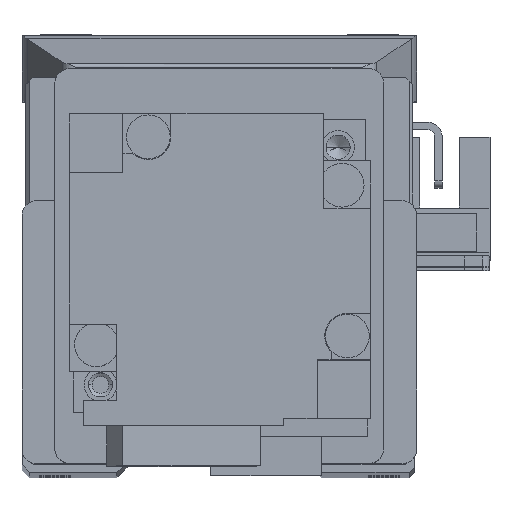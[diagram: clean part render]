
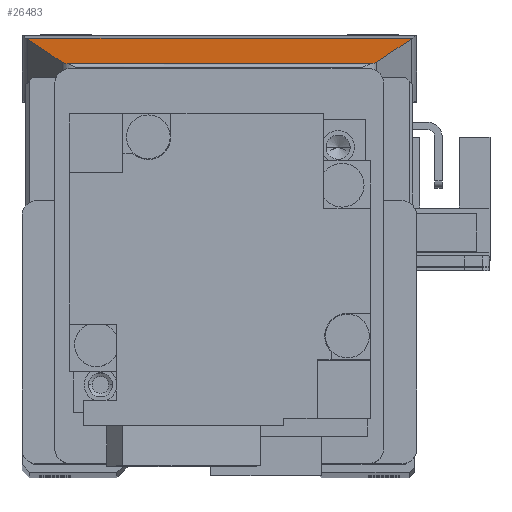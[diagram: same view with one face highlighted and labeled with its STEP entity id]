
A CAD part, top view. The second image highlights one B-rep face of the part: STEP entity #26483.
In plain terms, the highlighted planar face has unit normal (0, 0.966, 0.258).
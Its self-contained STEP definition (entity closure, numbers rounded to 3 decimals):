
#582 = CARTESIAN_POINT ( 'NONE',  ( 26.285, 49.723, 44.788 ) ) ;
#611 = VERTEX_POINT ( 'NONE', #21360 ) ;
#1203 = DIRECTION ( 'NONE',  ( 0.361, -0.24, 0.901 ) ) ;
#2721 = VECTOR ( 'NONE', #22898, 1000. ) ;
#4397 = EDGE_CURVE ( 'NONE', #14322, #16780, #9303, .T. ) ;
#4693 = CARTESIAN_POINT ( 'NONE',  ( 26.418, 49.815, 44.442 ) ) ;
#4695 = VERTEX_POINT ( 'NONE', #24215 ) ;
#4858 = ORIENTED_EDGE ( 'NONE', *, *, #4397, .T. ) ;
#5297 = CARTESIAN_POINT ( 'NONE',  ( -26.285, 49.723, 44.788 ) ) ;
#5342 = ORIENTED_EDGE ( 'NONE', *, *, #6257, .T. ) ;
#6257 = EDGE_CURVE ( 'NONE', #24327, #14322, #31504, .T. ) ;
#6643 = ORIENTED_EDGE ( 'NONE', *, *, #17551, .T. ) ;
#6715 = ORIENTED_EDGE ( 'NONE', *, *, #10898, .F. ) ;
#6969 = CARTESIAN_POINT ( 'NONE',  ( 21.36, 46.44, 57.101 ) ) ;
#7418 = VERTEX_POINT ( 'NONE', #13084 ) ;
#7911 = CARTESIAN_POINT ( 'NONE',  ( 26.285, 49.723, 44.788 ) ) ;
#8066 = AXIS2_PLACEMENT_3D ( 'NONE', #12038, #23162, #29037 ) ;
#8564 = CARTESIAN_POINT ( 'NONE',  ( -26.418, 49.815, 44.442 ) ) ;
#9202 = CARTESIAN_POINT ( 'NONE',  ( 26.477, 49.862, 44.266 ) ) ;
#9303 =( BOUNDED_CURVE ( )  B_SPLINE_CURVE ( 3, ( #11767, #33924, #17079, #28177 ),
 .UNSPECIFIED., .F., .F. ) 
 B_SPLINE_CURVE_WITH_KNOTS ( ( 4, 4 ),
 ( 1.951, 2.523 ),
 .UNSPECIFIED. ) 
 CURVE ( )  GEOMETRIC_REPRESENTATION_ITEM ( )  RATIONAL_B_SPLINE_CURVE ( ( 1., 0.973, 0.973, 1. ) ) 
 REPRESENTATION_ITEM ( '' )  );
#9499 = ORIENTED_EDGE ( 'NONE', *, *, #13606, .T. ) ;
#10214 = LINE ( 'NONE', #14268, #2721 ) ;
#10898 = EDGE_CURVE ( 'NONE', #4695, #16780, #10214, .T. ) ;
#11647 = VECTOR ( 'NONE', #1203, 1000. ) ;
#11684 = LINE ( 'NONE', #13460, #15241 ) ;
#11767 = CARTESIAN_POINT ( 'NONE',  ( -21.503, 46.535, 56.743 ) ) ;
#12038 = CARTESIAN_POINT ( 'NONE',  ( 27., 46.299, 57.629 ) ) ;
#12384 = CARTESIAN_POINT ( 'NONE',  ( -14.891, 42.127, 73.273 ) ) ;
#12984 = EDGE_CURVE ( 'NONE', #14977, #7418, #22142, .T. ) ;
#13084 = CARTESIAN_POINT ( 'NONE',  ( -26.477, 49.862, 44.266 ) ) ;
#13460 = CARTESIAN_POINT ( 'NONE',  ( 21.909, 46.806, 55.728 ) ) ;
#13606 = EDGE_CURVE ( 'NONE', #18646, #14977, #25996, .T. ) ;
#14268 = CARTESIAN_POINT ( 'NONE',  ( 27., 46.299, 57.629 ) ) ;
#14322 = VERTEX_POINT ( 'NONE', #25777 ) ;
#14502 = CARTESIAN_POINT ( 'NONE',  ( -26.354, 49.769, 44.616 ) ) ;
#14910 =( BOUNDED_CURVE ( )  B_SPLINE_CURVE ( 3, ( #25886, #31750, #6969, #18201 ),
 .UNSPECIFIED., .F., .F. ) 
 B_SPLINE_CURVE_WITH_KNOTS ( ( 4, 4 ),
 ( 3.761, 4.332 ),
 .UNSPECIFIED. ) 
 CURVE ( )  GEOMETRIC_REPRESENTATION_ITEM ( )  RATIONAL_B_SPLINE_CURVE ( ( 1., 0.973, 0.973, 1. ) ) 
 REPRESENTATION_ITEM ( '' )  );
#14977 = VERTEX_POINT ( 'NONE', #9202 ) ;
#15241 = VECTOR ( 'NONE', #27614, 1000. ) ;
#16227 = CARTESIAN_POINT ( 'NONE',  ( 27., 49.862, 44.266 ) ) ;
#16780 = VERTEX_POINT ( 'NONE', #27254 ) ;
#17079 = CARTESIAN_POINT ( 'NONE',  ( -21.121, 46.359, 57.405 ) ) ;
#17551 = EDGE_CURVE ( 'NONE', #611, #18646, #11684, .T. ) ;
#18201 = CARTESIAN_POINT ( 'NONE',  ( 21.503, 46.535, 56.743 ) ) ;
#18646 = VERTEX_POINT ( 'NONE', #582 ) ;
#18691 = EDGE_CURVE ( 'NONE', #7418, #24327, #27399, .T. ) ;
#21360 = CARTESIAN_POINT ( 'NONE',  ( 21.503, 46.535, 56.743 ) ) ;
#21891 = ORIENTED_EDGE ( 'NONE', *, *, #18691, .T. ) ;
#21904 = DIRECTION ( 'NONE',  ( -1., 0., 0. ) ) ;
#22142 = LINE ( 'NONE', #16227, #28750 ) ;
#22716 = EDGE_LOOP ( 'NONE', ( #6643, #9499, #31244, #21891, #5342, #4858, #6715, #32749 ) ) ;
#22898 = DIRECTION ( 'NONE',  ( -1., 0., 0. ) ) ;
#23162 = DIRECTION ( 'NONE',  ( 0., -0.966, -0.258 ) ) ;
#24215 = CARTESIAN_POINT ( 'NONE',  ( 20.806, 46.299, 57.629 ) ) ;
#24327 = VERTEX_POINT ( 'NONE', #5297 ) ;
#25143 = PLANE ( 'NONE',  #8066 ) ;
#25777 = CARTESIAN_POINT ( 'NONE',  ( -21.503, 46.535, 56.743 ) ) ;
#25886 = CARTESIAN_POINT ( 'NONE',  ( 20.806, 46.299, 57.629 ) ) ;
#25996 =( BOUNDED_CURVE ( )  B_SPLINE_CURVE ( 3, ( #7911, #30472, #4693, #35775 ),
 .UNSPECIFIED., .F., .F. ) 
 B_SPLINE_CURVE_WITH_KNOTS ( ( 4, 4 ),
 ( 4.332, 4.388 ),
 .UNSPECIFIED. ) 
 CURVE ( )  GEOMETRIC_REPRESENTATION_ITEM ( )  RATIONAL_B_SPLINE_CURVE ( ( 1., 1., 1., 1. ) ) 
 REPRESENTATION_ITEM ( '' )  );
#26483 = ADVANCED_FACE ( 'NONE', ( #34191 ), #25143, .F. ) ;
#27254 = CARTESIAN_POINT ( 'NONE',  ( -20.806, 46.299, 57.629 ) ) ;
#27399 =( BOUNDED_CURVE ( )  B_SPLINE_CURVE ( 3, ( #28427, #8564, #14502, #31259 ),
 .UNSPECIFIED., .F., .F. ) 
 B_SPLINE_CURVE_WITH_KNOTS ( ( 4, 4 ),
 ( 1.896, 1.951 ),
 .UNSPECIFIED. ) 
 CURVE ( )  GEOMETRIC_REPRESENTATION_ITEM ( )  RATIONAL_B_SPLINE_CURVE ( ( 1., 1., 1., 1. ) ) 
 REPRESENTATION_ITEM ( '' )  );
#27614 = DIRECTION ( 'NONE',  ( 0.361, 0.24, -0.901 ) ) ;
#28177 = CARTESIAN_POINT ( 'NONE',  ( -20.806, 46.299, 57.629 ) ) ;
#28427 = CARTESIAN_POINT ( 'NONE',  ( -26.477, 49.862, 44.266 ) ) ;
#28750 = VECTOR ( 'NONE', #21904, 1000. ) ;
#29037 = DIRECTION ( 'NONE',  ( 0., 0.258, -0.966 ) ) ;
#29943 = EDGE_CURVE ( 'NONE', #4695, #611, #14910, .T. ) ;
#30472 = CARTESIAN_POINT ( 'NONE',  ( 26.354, 49.769, 44.616 ) ) ;
#31244 = ORIENTED_EDGE ( 'NONE', *, *, #12984, .T. ) ;
#31259 = CARTESIAN_POINT ( 'NONE',  ( -26.285, 49.723, 44.788 ) ) ;
#31504 = LINE ( 'NONE', #12384, #11647 ) ;
#31750 = CARTESIAN_POINT ( 'NONE',  ( 21.121, 46.359, 57.405 ) ) ;
#32749 = ORIENTED_EDGE ( 'NONE', *, *, #29943, .T. ) ;
#33924 = CARTESIAN_POINT ( 'NONE',  ( -21.36, 46.44, 57.101 ) ) ;
#34191 = FACE_OUTER_BOUND ( 'NONE', #22716, .T. ) ;
#35775 = CARTESIAN_POINT ( 'NONE',  ( 26.477, 49.862, 44.266 ) ) ;
